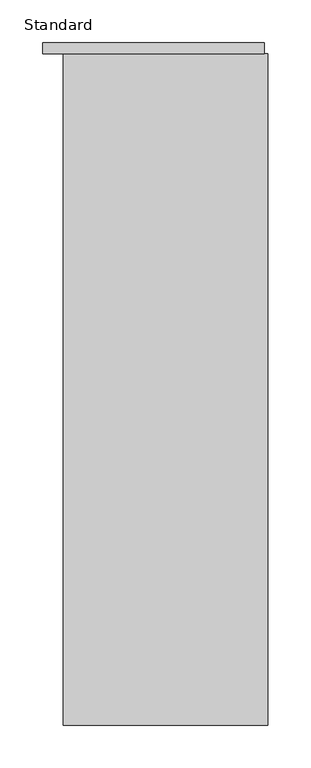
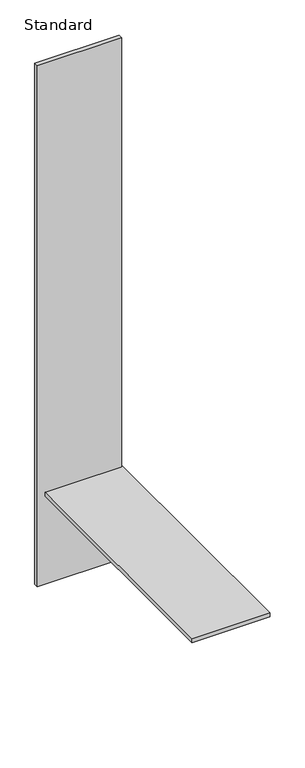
"""IFC4 building model written with IfcOpenShell, lengths in millimetres: furniture geometry, X_Partition-Compact Laminate-Duracube-Shower Seat & Division : Standard."""

from ifc_helpers import new_model, si_unit, frame, origin, place, context, project, spatial, polyline, outline, extrude, source, transform, mapped, element, save


def standard_7d118681(model_context):
    return source(origin(), model_context, "Body", "SweptSolid", [
        extrude(outline(polyline([(174.7003264, 0.0), (174.7003264, -13.0), (-85.2996736, -13.0), (-85.2996736, 0.0), (174.7003264, 0.0)])), frame((0.0, 0.0, 200.0), z_axis=(0.0, 0.0, 1.0), x_axis=(1.0, 0.0, 0.0)), (0.0, 0.0, 1.0), 1700.0),
        extrude(outline(polyline([(-61.2996736, -800.0), (-61.2996736, -13.0), (178.7003264, -13.0), (178.7003264, -800.0), (-61.2996736, -800.0)])), frame((0.0, 0.0, 487.0), z_axis=(0.0, 0.0, 1.0), x_axis=(1.0, 0.0, 0.0)), (0.0, 0.0, 1.0), 13.0),
    ])


if __name__ == "__main__":
    model = new_model("IFC4")
    model_context = context("Model", 3, world=origin())
    ifc_project = project(units=[si_unit("LENGTHUNIT", "METRE", prefix="MILLI")], contexts=[model_context])
    site = spatial("IfcSite", under=ifc_project)
    building = spatial("IfcBuilding", under=site)
    placement = place(None, origin())
    standard_shape = standard_7d118681(model_context)
    element("IfcFurniture", 1, ObjectType="X_Partition-Compact Laminate-Duracube-Shower Seat & Division : Standard", at=placement, inside=building, context=model_context, shape_type="MappedRepresentation", body=[
        mapped(standard_shape, transform((0.0, 0.0, 0.0), x_axis=(1.0, 0.0, 0.0), y_axis=(0.0, 1.0, 0.0), z_axis=(0.0, 0.0, 1.0))),
    ])
    save(model, "model.ifc")
